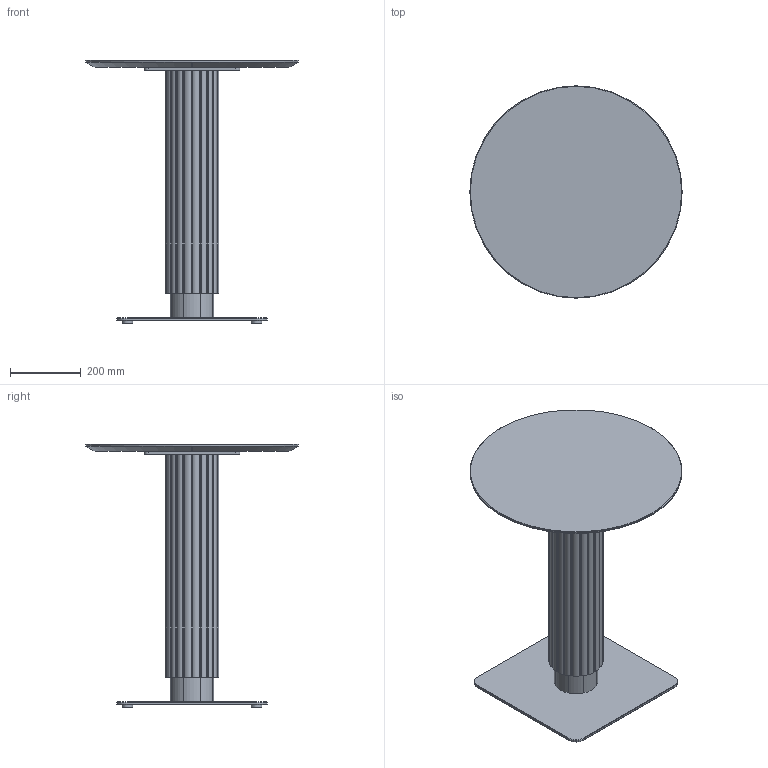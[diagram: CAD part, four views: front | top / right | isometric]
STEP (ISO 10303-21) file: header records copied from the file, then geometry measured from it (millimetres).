
FILE_DESCRIPTION( ('This file contains a STEP AP42 implementation' ,'as created by ZW3D STEP Interface translator.') ,'2;1' );
FILE_NAME( 'Godron - B_Carré - F1 - M5 - 600 x 600 x 750.stp' ,'24 912. 94831', (''), ('ZWCAD Software Co.'), 'Version 1.0', 'ZW3D to STEP translator', '' );
FILE_SCHEMA(('AUTOMOTIVE_DESIGN { 1 0 10303 214 1 1 1 1 }'));
Length unit declared in the file: millimetre
Products named in the file (15): 0; PIED BISTROT PARAMETRIQUE_; CROIX ACIER 370 V.02_; CRX-X370-02_; SOCLE ACIER L 425x425 V.02_; SCL-R425-02_; PLA-R30A-01_; PLA-R30A-01; COLONNE ACIER Ø48.5 V.02_; TUB-D048-02_; PLA-R48A-01_; Colonne GODRON H700_; WUERTH 0276063020 Euro-screw 6.3x2 Verzinkt_; PLATEAU BISTROT PARAMETRIQUE_; insert_m6_13_
Assembly tree (23 placements, depth 3):
  0
  PIED BISTROT PARAMETRIQUE_
    CROIX ACIER 370 V.02_
      CRX-X370-02_
    SOCLE ACIER L 425x425 V.02_
      SCL-R425-02_
      PLA-R30A-01_
      PLA-R30A-01  x3
    COLONNE ACIER Ø48.5 V.02_
      TUB-D048-02_
      PLA-R48A-01_  x2
    Colonne GODRON H700_
    WUERTH 0276063020 Euro-screw 6.3x2 Verzinkt_
    PLATEAU BISTROT PARAMETRIQUE_
      insert_m6_13_  x8
Bounding box: 600 x 600 x 744 mm (x, y, z)
Volume: 17796803.3 mm3; surface area: 2369162.8 mm2
Topology: 27 solids, 27 shells, 669 faces, 1662 edges, 1062 vertices
Faces by surface type: plane 302, cylinder 192, bspline 121, cone 53, torus 1
Full cylindrical faces by diameter (mm): 4.88 x1, 6 x8, 6.3 x1, 8 x45, 12 x2, 14 x2, 30 x4, 44.5 x3, 48.5 x1
Entity records: 16810 total; most frequent: CARTESIAN_POINT 4133, DIRECTION 2344, ORIENTED_EDGE 2338, EDGE_CURVE 1169, AXIS2_PLACEMENT_3D 829, VERTEX_POINT 756, VECTOR 686, LINE 686
